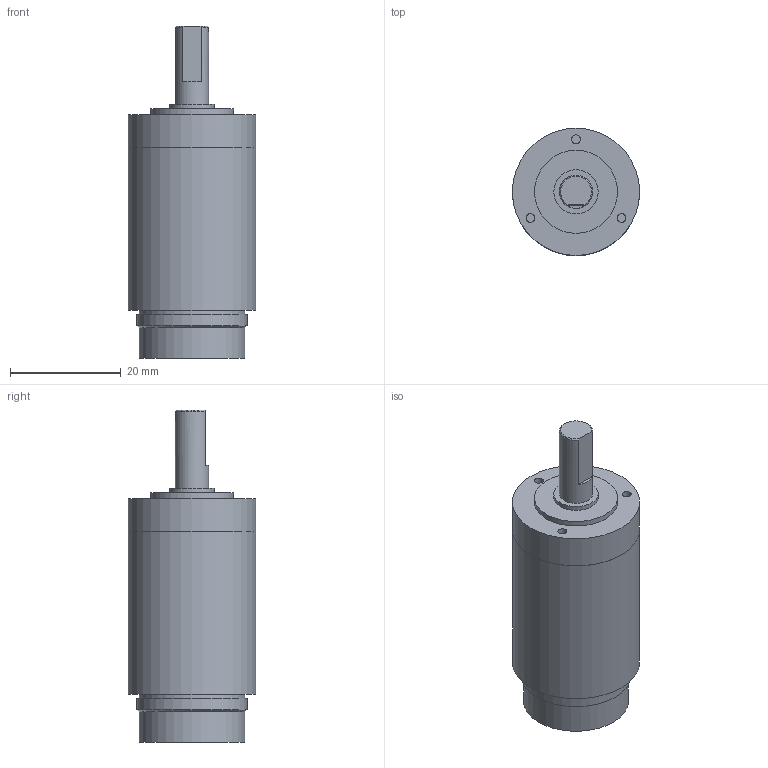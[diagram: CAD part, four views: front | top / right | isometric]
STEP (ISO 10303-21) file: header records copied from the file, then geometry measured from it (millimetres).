
FILE_DESCRIPTION(/* description */ (''),/* implementation_level */ '2;1');
FILE_NAME(/* name */ '23-1_5.stp',/* time_stamp */ '2016-09-06T15:05:28+02:00',/* author */ ('DR. FRITZ FAULHABER GmbH & Co. KG'),/* organization */ ('DR. FRITZ FAULHABER GmbH & Co. KG'),/* preprocessor_version */ 'ST-DEVELOPER v16',/* originating_system */ 'SIEMENS PLM Software NX 10.0',/* authorisation */ '');
FILE_SCHEMA (('AUTOMOTIVE_DESIGN { 1 0 10303 214 3 1 1 1 }'));
Length unit declared in the file: millimetre
Products named in the file (1): H00000214_A
Bounding box: 23 x 23 x 60 mm (x, y, z)
Volume: 17521.4 mm3; surface area: 4471.1 mm2
Topology: 1 solids, 1 shells, 34 faces, 72 edges, 59 vertices
Faces by surface type: plane 17, cylinder 15, cone 2
Full cylindrical faces by diameter (mm): 1.6 x3, 6 x1, 8 x1, 8.76 x1, 8.96 x1, 13.78 x1, 15 x1, 19 x2, 20 x1, 22.99 x1, 23 x2
Entity records: 889 total; most frequent: DIRECTION 165, CARTESIAN_POINT 131, AXIS2_PLACEMENT_3D 78, ORIENTED_EDGE 76, EDGE_LOOP 63, FACE_BOUND 55, CIRCLE 43, EDGE_CURVE 38
